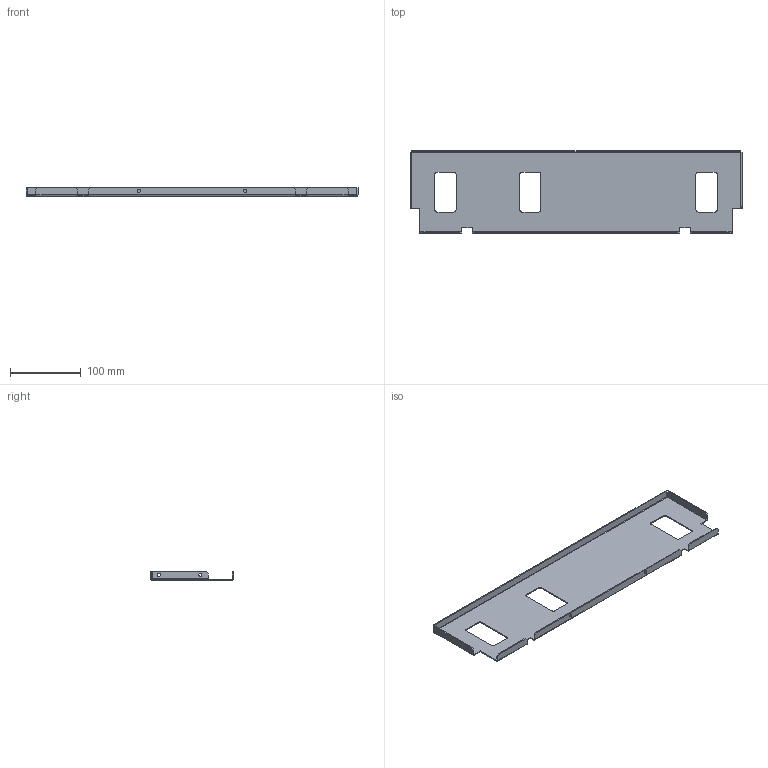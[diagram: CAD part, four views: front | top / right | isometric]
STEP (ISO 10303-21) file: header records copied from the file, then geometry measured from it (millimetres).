
FILE_DESCRIPTION(('CAx-IF Rec.Pracs.---Model Styling and Organization---1.2---2011-12-15','CAx-IF Rec.Pracs.---Geometric and Assembly Validation Properties---4.1---2014-06-16','CAx-IF Rec.Pracs.---PMI Polyline Presentation---2.0---2013-05-24'),'2;1');
FILE_NAME('R5MW3M1BP.stp','2021-05-05T12:59:01+03:00',(''),(''),'STEP Interface 4.4 by CT CoreTechnologie','3D_Evolution4.4 by CT CoreTechnologie','');
FILE_SCHEMA(('AUTOMOTIVE_DESIGN { 1 0 10303 214 1 1 1 1 }'));
Length unit declared in the file: millimetre
Products named in the file (2): R5MW3M1BP; RB.1511.00.00.0_-00
Assembly tree (1 placements, depth 2):
  R5MW3M1BP
    RB.1511.00.00.0_-00
Bounding box: 469 x 116.5 x 12 mm (x, y, z)
Surface area: 119811.1 mm2 (no closed solid volume)
Topology: 0 solids, 1 shells, 104 faces, 270 edges, 168 vertices
Faces by surface type: plane 64, cylinder 36, bspline 4
Entity records: 3311 total; most frequent: CARTESIAN_POINT 620, DIRECTION 546, ORIENTED_EDGE 540, EDGE_CURVE 270, VECTOR 198, LINE 198, AXIS2_PLACEMENT_3D 174, VERTEX_POINT 168
